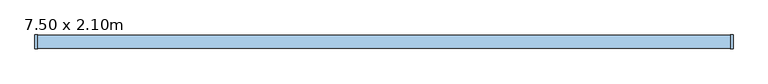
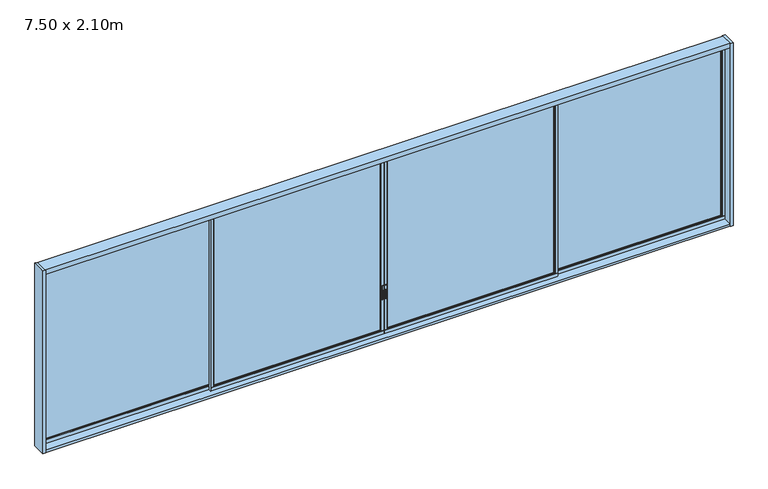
"""IFC4 building model written with IfcOpenShell, lengths in millimetres: window geometry, Janela correr - vidro c.perfil 4 folhas centrais : 7.50 x 2.10m."""

from ifc_helpers import new_model, si_unit, frame, origin, place, context, project, spatial, polyline, outline, extrude, faceted_brep, source, transform, mapped, element, save


def window_7_50_x_2_10m_947141e8(model_context):
    return source(origin(), model_context, "Body", "SolidModel", [
        extrude(outline(polyline([(1585.0, 5.0), (1425.0, 5.0), (1425.0, 25.0), (1585.0, 25.0), (1585.0, 5.0)]), holes=[polyline([(1529.4849874, 20.7469534), (1434.0872422, 20.7469534), (1434.0872422, 9.1918677), (1529.4849874, 9.1918677), (1529.4849874, 20.7469534)])]), frame((0.0, -7.3991119, 0.0), z_axis=(0.0, 1.0, 0.0), x_axis=(0.0, 0.0, 1.0)), (0.0, 0.0, 1.0), 2.3991119),
        extrude(outline(polyline([(40.0, 7.672758), (40.0, 12.9358747), (1847.5, 12.9358747), (1847.5, 7.672758), (40.0, 7.672758)])), frame((0.0, 0.0, 1075.0), z_axis=(0.0, 0.0, 1.0), x_axis=(1.0, 0.0, 0.0)), (0.0, 0.0, 1.0), 1925.0),
        faceted_brep([(1887.5, -5.0, 3050.0), (1887.5, -5.0, 3010.0), (1887.5, -4.375, 3010.0), (1887.5, -4.375, 1065.0), (1887.5, -5.0, 1065.0), (1887.5, -5.0, 1025.0), (1887.5, 25.0, 1025.0), (1887.5, 25.0, 1065.0), (1887.5, 24.375, 1065.0), (1887.5, 24.375, 3010.0), (1887.5, 25.0, 3010.0), (1887.5, 25.0, 3050.0), (0.0, -5.0, 3050.0), (0.0, 25.0, 3050.0), (0.0, 25.0, 3010.0), (0.0, 23.75, 3010.0), (0.0, 23.75, 1065.0), (0.0, 25.0, 1065.0), (0.0, 25.0, 1025.0), (0.0, -5.0, 1025.0), (0.0, -5.0, 1065.0), (0.0, -3.75, 1065.0), (0.0, -3.75, 3010.0), (0.0, -5.0, 3010.0), (1857.5, 24.375, 3010.0), (1857.5, 20.0, 3010.0), (30.0, 20.0, 3010.0), (30.0, 23.75, 3010.0), (1857.5, 20.0, 1065.0), (30.0, 20.0, 1065.0), (40.0, 20.0, 3000.0), (40.0, 20.0, 1075.0), (1847.5, 20.0, 1075.0), (1847.5, 20.0, 3000.0), (1847.5, 0.0, 3000.0), (40.0, 0.0, 3000.0), (30.0, 0.0, 3010.0), (30.0, 0.0, 1065.0), (1857.5, 0.0, 1065.0), (1857.5, 0.0, 3010.0), (1847.5, 0.0, 1075.0), (40.0, 0.0, 1075.0), (30.0, -3.75, 3010.0), (1857.5, -4.375, 3010.0), (1857.5, 24.375, 1065.0), (1857.5, -4.375, 1065.0), (30.0, 23.75, 1065.0), (30.0, -3.75, 1065.0)], [[[0, 1, 2, 3, 4, 5, 6, 7, 8, 9, 10, 11]], [[12, 13, 14, 15, 16, 17, 18, 19, 20, 21, 22, 23]], [[11, 13, 12, 0]], [[10, 14, 13, 11]], [[10, 9, 24, 25, 26, 27, 15, 14]], [[25, 28, 29, 26], [30, 31, 32, 33]], [[34, 35, 30, 33]], [[36, 37, 38, 39], [34, 40, 41, 35]], [[23, 22, 42, 36, 39, 43, 2, 1]], [[0, 12, 23, 1]], [[8, 44, 24, 9]], [[44, 28, 25, 24]], [[33, 32, 40, 34]], [[43, 39, 38, 45]], [[2, 43, 45, 3]], [[15, 27, 46, 16]], [[27, 26, 29, 46]], [[35, 41, 31, 30]], [[47, 37, 36, 42]], [[21, 47, 42, 22]], [[18, 6, 5, 19]], [[17, 7, 6, 18]], [[17, 16, 46, 29, 28, 44, 8, 7]], [[40, 32, 31, 41]], [[4, 3, 45, 38, 37, 47, 21, 20]], [[19, 5, 4, 20]]]),
        extrude(outline(polyline([(1585.0, -5.0), (1585.0, -25.0), (1425.0, -25.0), (1425.0, -5.0), (1585.0, -5.0)]), holes=[polyline([(1529.4849874, -20.7469534), (1529.4849874, -9.1918677), (1434.0872422, -9.1918677), (1434.0872422, -20.7469534), (1529.4849874, -20.7469534)])]), frame((0.0, -7.3991119, 0.0), z_axis=(0.0, 1.0, 0.0), x_axis=(0.0, 0.0, 1.0)), (0.0, 0.0, 1.0), 2.3991119),
        extrude(outline(polyline([(-40.0, 7.672758), (-1847.5, 7.672758), (-1847.5, 12.9358747), (-40.0, 12.9358747), (-40.0, 7.672758)])), frame((0.0, 0.0, 1075.0), z_axis=(0.0, 0.0, 1.0), x_axis=(1.0, 0.0, 0.0)), (0.0, 0.0, 1.0), 1925.0),
        faceted_brep([(-1887.5, -5.0, 3050.0), (-1887.5, 25.0, 3050.0), (-1887.5, 25.0, 3010.0), (-1887.5, 24.375, 3010.0), (-1887.5, 24.375, 1065.0), (-1887.5, 25.0, 1065.0), (-1887.5, 25.0, 1025.0), (-1887.5, -5.0, 1025.0), (-1887.5, -5.0, 1065.0), (-1887.5, -4.375, 1065.0), (-1887.5, -4.375, 3010.0), (-1887.5, -5.0, 3010.0), (0.0, -5.0, 3050.0), (0.0, -5.0, 3010.0), (0.0, -3.75, 3010.0), (0.0, -3.75, 1065.0), (0.0, -5.0, 1065.0), (0.0, -5.0, 1025.0), (0.0, 25.0, 1025.0), (0.0, 25.0, 1065.0), (0.0, 23.75, 1065.0), (0.0, 23.75, 3010.0), (0.0, 25.0, 3010.0), (0.0, 25.0, 3050.0), (-30.0, 23.75, 3010.0), (-30.0, 20.0, 3010.0), (-1857.5, 20.0, 3010.0), (-1857.5, 24.375, 3010.0), (-30.0, 20.0, 1065.0), (-1857.5, 20.0, 1065.0), (-40.0, 20.0, 3000.0), (-1847.5, 20.0, 3000.0), (-1847.5, 20.0, 1075.0), (-40.0, 20.0, 1075.0), (-1847.5, 0.0, 3000.0), (-40.0, 0.0, 3000.0), (-30.0, 0.0, 3010.0), (-1857.5, 0.0, 3010.0), (-1857.5, 0.0, 1065.0), (-30.0, 0.0, 1065.0), (-40.0, 0.0, 1075.0), (-1847.5, 0.0, 1075.0), (-1857.5, -4.375, 3010.0), (-30.0, -3.75, 3010.0), (-1857.5, 24.375, 1065.0), (-1857.5, -4.375, 1065.0), (-30.0, 23.75, 1065.0), (-30.0, -3.75, 1065.0)], [[[0, 1, 2, 3, 4, 5, 6, 7, 8, 9, 10, 11]], [[12, 13, 14, 15, 16, 17, 18, 19, 20, 21, 22, 23]], [[1, 0, 12, 23]], [[2, 1, 23, 22]], [[2, 22, 21, 24, 25, 26, 27, 3]], [[26, 25, 28, 29], [30, 31, 32, 33]], [[34, 31, 30, 35]], [[36, 37, 38, 39], [34, 35, 40, 41]], [[13, 11, 10, 42, 37, 36, 43, 14]], [[0, 11, 13, 12]], [[4, 3, 27, 44]], [[44, 27, 26, 29]], [[31, 34, 41, 32]], [[42, 45, 38, 37]], [[10, 9, 45, 42]], [[21, 20, 46, 24]], [[24, 46, 28, 25]], [[35, 30, 33, 40]], [[47, 43, 36, 39]], [[15, 14, 43, 47]], [[18, 17, 7, 6]], [[19, 18, 6, 5]], [[19, 5, 4, 44, 29, 28, 46, 20]], [[41, 40, 33, 32]], [[8, 16, 15, 47, 39, 38, 45, 9]], [[17, 16, 8, 7]]]),
        extrude(outline(polyline([(3680.0, 37.672758), (1872.5, 37.672758), (1872.5, 42.9358747), (3680.0, 42.9358747), (3680.0, 37.672758)])), frame((0.0, 0.0, 1075.0), z_axis=(0.0, 0.0, 1.0), x_axis=(1.0, 0.0, 0.0)), (0.0, 0.0, 1.0), 1925.0),
        faceted_brep([(1832.5, 25.0, 3050.0), (1832.5, 55.0, 3050.0), (1832.5, 55.0, 3010.0), (1832.5, 54.375, 3010.0), (1832.5, 54.375, 1065.0), (1832.5, 55.0, 1065.0), (1832.5, 55.0, 1025.0), (1832.5, 25.0, 1025.0), (1832.5, 25.0, 1065.0), (1832.5, 25.625, 1065.0), (1832.5, 25.625, 3010.0), (1832.5, 25.0, 3010.0), (3720.0, 25.0, 3050.0), (3720.0, 25.0, 3010.0), (3720.0, 26.25, 3010.0), (3720.0, 26.25, 1065.0), (3720.0, 25.0, 1065.0), (3720.0, 25.0, 1025.0), (3720.0, 55.0, 1025.0), (3720.0, 55.0, 1065.0), (3720.0, 53.75, 1065.0), (3720.0, 53.75, 3010.0), (3720.0, 55.0, 3010.0), (3720.0, 55.0, 3050.0), (3690.0, 53.75, 3010.0), (3690.0, 50.0, 3010.0), (1862.5, 50.0, 3010.0), (1862.5, 54.375, 3010.0), (3690.0, 50.0, 1065.0), (1862.5, 50.0, 1065.0), (3680.0, 50.0, 3000.0), (1872.5, 50.0, 3000.0), (1872.5, 50.0, 1075.0), (3680.0, 50.0, 1075.0), (1872.5, 30.0, 3000.0), (3680.0, 30.0, 3000.0), (3690.0, 30.0, 3010.0), (1862.5, 30.0, 3010.0), (1862.5, 30.0, 1065.0), (3690.0, 30.0, 1065.0), (3680.0, 30.0, 1075.0), (1872.5, 30.0, 1075.0), (1862.5, 25.625, 3010.0), (3690.0, 26.25, 3010.0), (1862.5, 54.375, 1065.0), (1862.5, 25.625, 1065.0), (3690.0, 53.75, 1065.0), (3690.0, 26.25, 1065.0)], [[[0, 1, 2, 3, 4, 5, 6, 7, 8, 9, 10, 11]], [[12, 13, 14, 15, 16, 17, 18, 19, 20, 21, 22, 23]], [[1, 0, 12, 23]], [[2, 1, 23, 22]], [[2, 22, 21, 24, 25, 26, 27, 3]], [[26, 25, 28, 29], [30, 31, 32, 33]], [[34, 31, 30, 35]], [[36, 37, 38, 39], [34, 35, 40, 41]], [[13, 11, 10, 42, 37, 36, 43, 14]], [[0, 11, 13, 12]], [[4, 3, 27, 44]], [[44, 27, 26, 29]], [[31, 34, 41, 32]], [[42, 45, 38, 37]], [[10, 9, 45, 42]], [[21, 20, 46, 24]], [[24, 46, 28, 25]], [[35, 30, 33, 40]], [[47, 43, 36, 39]], [[15, 14, 43, 47]], [[18, 17, 7, 6]], [[19, 18, 6, 5]], [[19, 5, 4, 44, 29, 28, 46, 20]], [[41, 40, 33, 32]], [[8, 16, 15, 47, 39, 38, 45, 9]], [[17, 16, 8, 7]]]),
        extrude(outline(polyline([(-1872.5, 37.672758), (-3680.0, 37.672758), (-3680.0, 42.9358747), (-1872.5, 42.9358747), (-1872.5, 37.672758)])), frame((0.0, 0.0, 1075.0), z_axis=(0.0, 0.0, 1.0), x_axis=(1.0, 0.0, 0.0)), (0.0, 0.0, 1.0), 1925.0),
        faceted_brep([(-3720.0, 25.0, 3050.0), (-3720.0, 55.0, 3050.0), (-3720.0, 55.0, 3010.0), (-3720.0, 54.375, 3010.0), (-3720.0, 54.375, 1065.0), (-3720.0, 55.0, 1065.0), (-3720.0, 55.0, 1025.0), (-3720.0, 25.0, 1025.0), (-3720.0, 25.0, 1065.0), (-3720.0, 25.625, 1065.0), (-3720.0, 25.625, 3010.0), (-3720.0, 25.0, 3010.0), (-1832.5, 25.0, 3050.0), (-1832.5, 25.0, 3010.0), (-1832.5, 26.25, 3010.0), (-1832.5, 26.25, 1065.0), (-1832.5, 25.0, 1065.0), (-1832.5, 25.0, 1025.0), (-1832.5, 55.0, 1025.0), (-1832.5, 55.0, 1065.0), (-1832.5, 53.75, 1065.0), (-1832.5, 53.75, 3010.0), (-1832.5, 55.0, 3010.0), (-1832.5, 55.0, 3050.0), (-1862.5, 53.75, 3010.0), (-1862.5, 50.0, 3010.0), (-3690.0, 50.0, 3010.0), (-3690.0, 54.375, 3010.0), (-1862.5, 50.0, 1065.0), (-3690.0, 50.0, 1065.0), (-1872.5, 50.0, 3000.0), (-3680.0, 50.0, 3000.0), (-3680.0, 50.0, 1075.0), (-1872.5, 50.0, 1075.0), (-3680.0, 30.0, 3000.0), (-1872.5, 30.0, 3000.0), (-1862.5, 30.0, 3010.0), (-3690.0, 30.0, 3010.0), (-3690.0, 30.0, 1065.0), (-1862.5, 30.0, 1065.0), (-1872.5, 30.0, 1075.0), (-3680.0, 30.0, 1075.0), (-3690.0, 25.625, 3010.0), (-1862.5, 26.25, 3010.0), (-3690.0, 54.375, 1065.0), (-3690.0, 25.625, 1065.0), (-1862.5, 53.75, 1065.0), (-1862.5, 26.25, 1065.0)], [[[0, 1, 2, 3, 4, 5, 6, 7, 8, 9, 10, 11]], [[12, 13, 14, 15, 16, 17, 18, 19, 20, 21, 22, 23]], [[1, 0, 12, 23]], [[2, 1, 23, 22]], [[2, 22, 21, 24, 25, 26, 27, 3]], [[26, 25, 28, 29], [30, 31, 32, 33]], [[34, 31, 30, 35]], [[36, 37, 38, 39], [34, 35, 40, 41]], [[13, 11, 10, 42, 37, 36, 43, 14]], [[0, 11, 13, 12]], [[4, 3, 27, 44]], [[44, 27, 26, 29]], [[31, 34, 41, 32]], [[42, 45, 38, 37]], [[10, 9, 45, 42]], [[21, 20, 46, 24]], [[24, 46, 28, 25]], [[35, 30, 33, 40]], [[47, 43, 36, 39]], [[15, 14, 43, 47]], [[18, 17, 7, 6]], [[19, 18, 6, 5]], [[19, 5, 4, 44, 29, 28, 46, 20]], [[41, 40, 33, 32]], [[8, 16, 15, 47, 39, 38, 45, 9]], [[17, 16, 8, 7]]]),
        extrude(outline(polyline([(3720.0, -70.0), (-3720.0, -70.0), (-3720.0, 70.0), (3720.0, 70.0), (3720.0, -70.0)])), frame((0.0, 0.0, 3050.0), z_axis=(0.0, 0.0, 1.0), x_axis=(1.0, 0.0, 0.0)), (0.0, 0.0, 1.0), 50.0),
        extrude(outline(polyline([(3720.0, -70.0), (-3720.0, -70.0), (-3720.0, 70.0), (3720.0, 70.0), (3720.0, -70.0)])), frame((0.0, 0.0, 1000.0), z_axis=(0.0, 0.0, 1.0), x_axis=(1.0, 0.0, 0.0)), (0.0, 0.0, 1.0), 25.0),
        extrude(outline(polyline([(-3720.0, -75.0), (-3750.0, -75.0), (-3750.0, 75.0), (-3720.0, 75.0), (-3720.0, -75.0)])), frame((0.0, 0.0, 1000.0), z_axis=(0.0, 0.0, 1.0), x_axis=(1.0, 0.0, 0.0)), (0.0, 0.0, 1.0), 2100.0),
        extrude(outline(polyline([(3750.0, -75.0), (3720.0, -75.0), (3720.0, 75.0), (3750.0, 75.0), (3750.0, -75.0)])), frame((0.0, 0.0, 1000.0), z_axis=(0.0, 0.0, 1.0), x_axis=(1.0, 0.0, 0.0)), (0.0, 0.0, 1.0), 2100.0),
    ])


if __name__ == "__main__":
    model = new_model("IFC4")
    model_context = context("Model", 3, world=origin())
    ifc_project = project(units=[si_unit("LENGTHUNIT", "METRE", prefix="MILLI")], contexts=[model_context])
    site = spatial("IfcSite", under=ifc_project)
    building = spatial("IfcBuilding", under=site)
    placement = place(None, origin())
    window_7_50_x_2_10m_shape = window_7_50_x_2_10m_947141e8(model_context)
    element("IfcWindow", 1, ObjectType="Janela correr - vidro c.perfil 4 folhas centrais : 7.50 x 2.10m", at=placement, inside=building, context=model_context, shape_type="MappedRepresentation", body=[
        mapped(window_7_50_x_2_10m_shape, transform((0.0, 0.0, 0.0), x_axis=(1.0, 0.0, 0.0), y_axis=(0.0, 1.0, 0.0), z_axis=(0.0, 0.0, 1.0))),
    ])
    save(model, "model.ifc")
